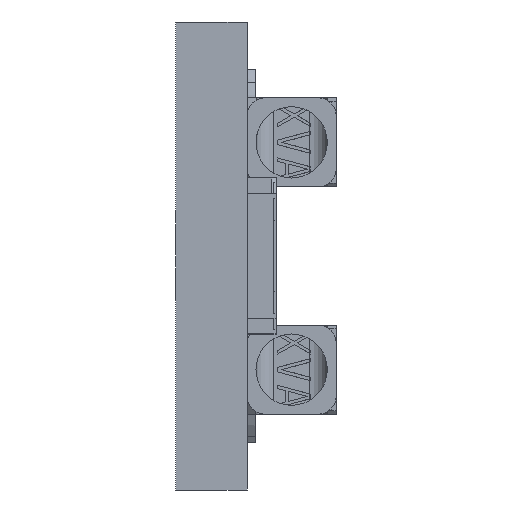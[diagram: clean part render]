
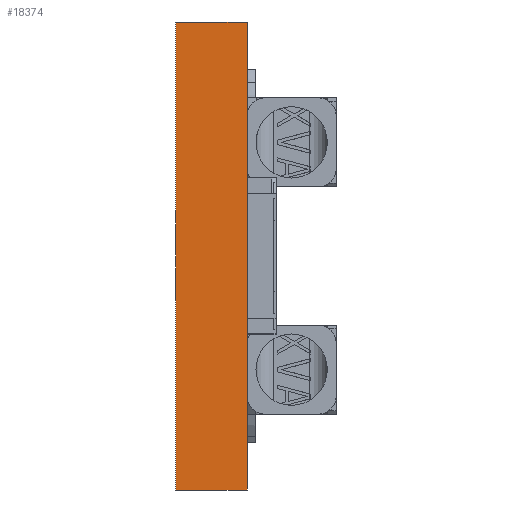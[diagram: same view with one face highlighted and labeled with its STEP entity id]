
A CAD part, left-side view. The second image highlights one B-rep face of the part: STEP entity #18374.
In plain terms, the highlighted planar face has unit normal (-1, 0, 0).
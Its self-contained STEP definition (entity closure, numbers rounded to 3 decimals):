
#314=LINE('',#24223,#1970);
#318=LINE('',#24234,#1974);
#322=LINE('',#24245,#1978);
#325=LINE('',#24251,#1981);
#1970=VECTOR('',#20161,1000.);
#1974=VECTOR('',#20169,1000.);
#1978=VECTOR('',#20177,1000.);
#1981=VECTOR('',#20186,1000.);
#4059=ORIENTED_EDGE('',*,*,#7783,.T.);
#4060=ORIENTED_EDGE('',*,*,#7796,.F.);
#4061=ORIENTED_EDGE('',*,*,#7788,.F.);
#4062=ORIENTED_EDGE('',*,*,#7793,.T.);
#7783=EDGE_CURVE('',#9689,#9690,#314,.T.);
#7788=EDGE_CURVE('',#9694,#9695,#318,.T.);
#7793=EDGE_CURVE('',#9694,#9689,#322,.T.);
#7796=EDGE_CURVE('',#9695,#9690,#325,.T.);
#9689=VERTEX_POINT('',#24224);
#9690=VERTEX_POINT('',#24225);
#9694=VERTEX_POINT('',#24235);
#9695=VERTEX_POINT('',#24236);
#11048=EDGE_LOOP('',(#4059,#4060,#4061,#4062));
#11850=FACE_BOUND('',#11048,.T.);
#12592=PLANE('',#19108);
#18374=ADVANCED_FACE('',(#11850),#12592,.F.);
#19108=AXIS2_PLACEMENT_3D('',#24252,#20187,#20188);
#20161=DIRECTION('',(0.,0.,1.));
#20169=DIRECTION('',(0.,0.,1.));
#20177=DIRECTION('',(0.,-1.,0.));
#20186=DIRECTION('',(0.,-1.,0.));
#20187=DIRECTION('',(1.,0.,0.));
#20188=DIRECTION('',(0.,0.,-1.));
#24223=CARTESIAN_POINT('',(-139.5,0.,-5.25));
#24224=CARTESIAN_POINT('',(-139.5,0.,-5.25));
#24225=CARTESIAN_POINT('',(-139.5,0.,5.25));
#24234=CARTESIAN_POINT('',(-139.5,1.6,-5.25));
#24235=CARTESIAN_POINT('',(-139.5,1.6,-5.25));
#24236=CARTESIAN_POINT('',(-139.5,1.6,5.25));
#24245=CARTESIAN_POINT('',(-139.5,1.6,-5.25));
#24251=CARTESIAN_POINT('',(-139.5,1.6,5.25));
#24252=CARTESIAN_POINT('',(-139.5,1.6,-5.25));
